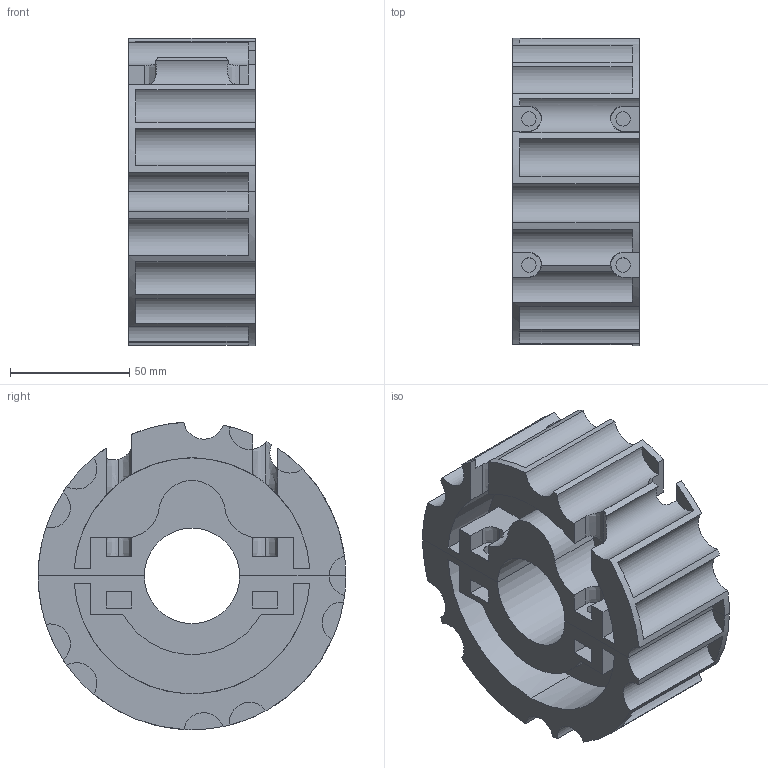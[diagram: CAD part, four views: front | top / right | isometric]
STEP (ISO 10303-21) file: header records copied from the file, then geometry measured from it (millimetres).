
FILE_DESCRIPTION(('CATIA V5 STEP Exchange','CAx-IF Rec.Pracs.--- Model Styling and Organization---1.4--- 2014-01-23'),'2;1');
FILE_NAME('C:\Users\Admin\Desktop\BUTUN-PARCALAR\alhan\312\314KI2421A.stp','2022-03-23T19:39:30+00:00',('none'),('none'),'CATIA Version 5-6 Release 2017','CATIA V5 STEP AP214','none');
FILE_SCHEMA(('AUTOMOTIVE_DESIGN { 1 0 10303 214 1 1 1 1 }'));
Length unit declared in the file: millimetre
Products named in the file (1): 314KI2421A
Bounding box: 53 x 129 x 128.91 mm (x, y, z)
Volume: 359561.6 mm3; surface area: 96039.4 mm2
Topology: 2 solids, 2 shells, 179 faces, 515 edges, 346 vertices
Faces by surface type: plane 100, cylinder 63, extrusion 16
Entity records: 5554 total; most frequent: CARTESIAN_POINT 1290, ORIENTED_EDGE 1030, DIRECTION 607, EDGE_CURVE 515, VERTEX_POINT 346, VECTOR 311, LINE 295, AXIS2_PLACEMENT_3D 241
